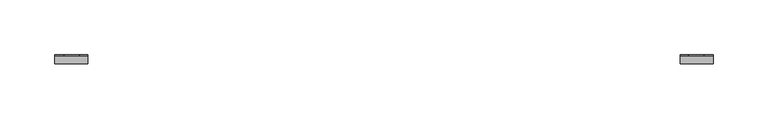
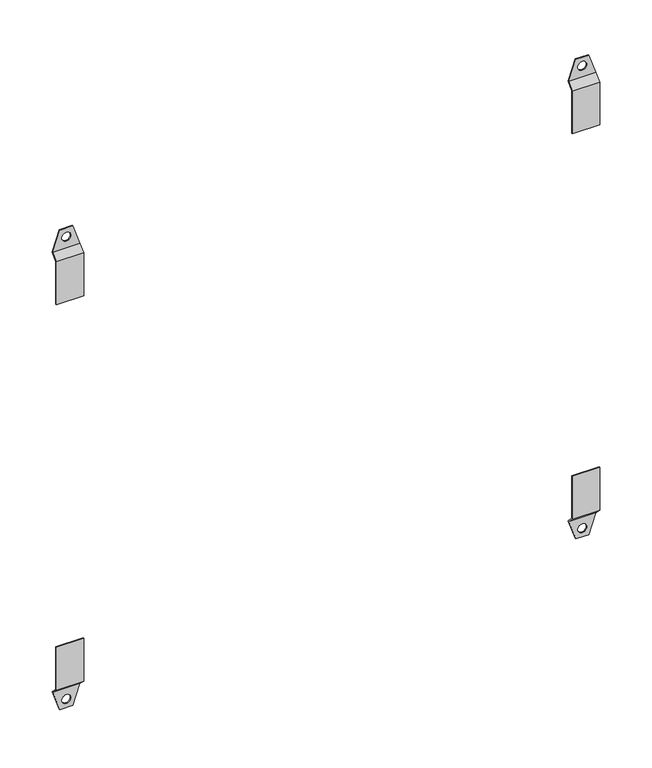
"""IFC4 building model written with IfcOpenShell, lengths in millimetres: electric distribution board geometry, DKC_Комплект кронштейнов для настенного крепления : DKC_Комплект кронштейнов для настенного крепления."""

import ifcopenshell
import ifcopenshell.guid

model = None  # the IFC model being written
_history = None  # IfcOwnerHistory: only IFC2X3 demands one
_inside = {}  # id of a spatial element -> (the spatial element, [elements in it])
_under = {}  # id of a project, library or spatial element -> (it, [spatial elements below it])
_declared = {}  # id of a project -> (the project, [libraries it declares])
_typed = {}  # id of a type object -> (the type object, [elements of that type])
_made_of = {}  # id of a material, layer set ... -> (it, [elements and type objects made of it])


def new_model(schema):
    """Start an empty IFC model of exactly this schema.

    Asked for "IFC4X3", IfcOpenShell would pick the latest addendum, in which some entities
    have other attributes; the version numbers below select the first issue.
    IFC2X3 requires an IfcOwnerHistory on every rooted entity: one is made here for all.
    """
    global model, _history
    if schema == "IFC4X3":
        model = ifcopenshell.file(schema_version=(4, 3, 0, 0))
    else:
        model = ifcopenshell.file(schema=schema)
    _inside.clear()
    _under.clear()
    _declared.clear()
    _typed.clear()
    _made_of.clear()
    _history = None
    if model.schema == "IFC2X3":
        org = make("IfcOrganization", Name="unknown")
        user = make(
            "IfcPersonAndOrganization",
            ThePerson=make("IfcPerson", FamilyName="unknown"),
            TheOrganization=org,
        )
        app = make(
            "IfcApplication",
            ApplicationDeveloper=org,
            Version="unknown",
            ApplicationFullName="unknown",
            ApplicationIdentifier="unknown",
        )
        _history = make(
            "IfcOwnerHistory",
            OwningUser=user,
            OwningApplication=app,
            ChangeAction="ADDED",
            CreationDate=0,
        )
    return model


def make(cls, **values):
    """One entity of the class cls with the attributes given. An attribute that is None is left unset."""
    return model.create_entity(
        cls, **{name: value for name, value in values.items() if value is not None}
    )


def rooted(cls, **values):
    """An entity with a GlobalId (a new one), such as an element, a storey or a relation."""
    return make(cls, GlobalId=ifcopenshell.guid.new(), OwnerHistory=_history, **values)


def si_unit(unit_type, name, prefix=None):
    """IfcSIUnit, for example si_unit("LENGTHUNIT", "METRE", prefix="MILLI")."""
    return make("IfcSIUnit", UnitType=unit_type, Prefix=prefix, Name=name)


def assignment(units):
    """IfcUnitAssignment: the units of a project."""
    return None if units is None else make("IfcUnitAssignment", Units=units)


def point(xyz):
    """IfcCartesianPoint."""
    return None if xyz is None else make("IfcCartesianPoint", Coordinates=xyz)


def direction(xyz):
    """IfcDirection."""
    return None if xyz is None else make("IfcDirection", DirectionRatios=xyz)


def frame(location, z_axis=None, x_axis=None):
    """IfcAxis2Placement3D, a coordinate frame: its origin and axes. An axis left out is left unset."""
    return make(
        "IfcAxis2Placement3D",
        Location=point(location),
        Axis=direction(z_axis),
        RefDirection=direction(x_axis),
    )


def origin():
    """The frame at (0, 0, 0) with its axes left unset."""
    return frame((0.0, 0.0, 0.0))


def place(relative_to, where):
    """IfcLocalPlacement: puts the frame where relative to a parent placement (None: the world)."""
    return make(
        "IfcLocalPlacement", PlacementRelTo=relative_to, RelativePlacement=where
    )


def context(
    kind, dimensions, precision=None, world=None, true_north=None, identifier=None
):
    """IfcGeometricRepresentationContext, for example the 3D "Model" context."""
    return make(
        "IfcGeometricRepresentationContext",
        ContextIdentifier=identifier,
        ContextType=kind,
        CoordinateSpaceDimension=dimensions,
        Precision=precision,
        WorldCoordinateSystem=world,
        TrueNorth=true_north,
    )


def project(units=None, contexts=None):
    """IfcProject with its units and contexts."""
    return rooted(
        "IfcProject",
        Name="project",
        RepresentationContexts=contexts,
        UnitsInContext=assignment(units),
    )


def spatial(cls, under=None, at=None, **own):
    """A site, building, storey or space (cls), placed at a placement, below another one or the project."""
    s = rooted(cls, ObjectPlacement=at, **own)
    if under is not None:
        _under.setdefault(under.id(), (under, []))[1].append(s)
    return s


def polyline(points):
    """IfcPolyline through the points."""
    return make("IfcPolyline", Points=[point(p) for p in points])


def circle_curve(where, radius):
    """IfcCircle in the frame where."""
    return make("IfcCircle", Position=where, Radius=radius)


def shape(context_of_items, identifier, shape_type, items):
    """IfcShapeRepresentation: the items that make up one representation, for example the "Body"."""
    return make(
        "IfcShapeRepresentation",
        ContextOfItems=context_of_items,
        RepresentationIdentifier=identifier,
        RepresentationType=shape_type,
        Items=items,
    )


def source(mapping_origin, context_of_items, identifier, shape_type, items):
    """IfcRepresentationMap: a shape defined once, which mapped items show again and again."""
    return make(
        "IfcRepresentationMap",
        MappingOrigin=mapping_origin,
        MappedRepresentation=shape(context_of_items, identifier, shape_type, items),
    )


def transform(
    local_origin,
    x_axis=None,
    y_axis=None,
    z_axis=None,
    scale=None,
    scale2=None,
    scale3=None,
    uniform=True,
):
    """IfcCartesianTransformationOperator3D, or its non-uniform kind. x_axis, y_axis, z_axis: its Axis1, 2, 3."""
    if uniform:
        return make(
            "IfcCartesianTransformationOperator3D",
            Axis1=direction(x_axis),
            Axis2=direction(y_axis),
            LocalOrigin=point(local_origin),
            Scale=scale,
            Axis3=direction(z_axis),
        )
    return make(
        "IfcCartesianTransformationOperator3DnonUniform",
        Axis1=direction(x_axis),
        Axis2=direction(y_axis),
        LocalOrigin=point(local_origin),
        Scale=scale,
        Axis3=direction(z_axis),
        Scale2=scale2,
        Scale3=scale3,
    )


def mapped(mapping_source, mapping_target):
    """IfcMappedItem: shows the shape of a source again, moved by a transform."""
    return make(
        "IfcMappedItem", MappingSource=mapping_source, MappingTarget=mapping_target
    )


def made_of(thing, what):
    """Note that an element or type object is made of a material, layer set ...; save() writes the relation."""
    if what is not None:
        _made_of.setdefault(what.id(), (what, []))[1].append(thing)
    return thing


def element(
    cls,
    number,
    at=None,
    inside=None,
    cuts=None,
    type_object=None,
    material=None,
    context=None,
    identifier="Body",
    shape_type=None,
    held_by="IfcProductDefinitionShape",
    body=None,
    shapes=None,
    **own,
):
    """One element of the class cls, such as IfcWall. Its Tag is "e" and its number.

    at: its placement. inside: the storey or other place that contains it. cuts: it is an
    opening in that element (IfcRelVoidsElement). A single representation is given by context,
    identifier, shape_type and body (its items); several are given by shapes. held_by: the class
    of the entity that holds the representations. save() writes the other relations.
    """
    e = rooted(cls, Tag="e%d" % number, ObjectPlacement=at, **own)
    if body is not None:
        shapes = [shape(context, identifier, shape_type, body)]
    if shapes is not None:
        e.Representation = make(held_by, Representations=shapes)
    if inside is not None:
        _inside.setdefault(inside.id(), (inside, []))[1].append(e)
    if cuts is not None:
        rooted(
            "IfcRelVoidsElement", RelatingBuildingElement=cuts, RelatedOpeningElement=e
        )
    if type_object is not None:
        _typed.setdefault(type_object.id(), (type_object, []))[1].append(e)
    return made_of(e, material)


def aggregate(whole, parts):
    """IfcRelAggregates: a whole, such as a stair, and the parts it consists of."""
    return rooted("IfcRelAggregates", RelatingObject=whole, RelatedObjects=parts)


def save(model, path):
    """Write the relations noted so far, then the file.

    IfcRelAggregates (storeys below a building ...), IfcRelContainedInSpatialStructure (elements
    in a storey), IfcRelDefinesByType, IfcRelAssociatesMaterial and IfcRelDeclares: one each for
    every whole, place, type object, material and project.
    """
    for whole, parts in _under.values():
        aggregate(whole, parts)
    for where, things in _inside.values():
        rooted(
            "IfcRelContainedInSpatialStructure",
            RelatedElements=things,
            RelatingStructure=where,
        )
    for kind, things in _typed.values():
        rooted("IfcRelDefinesByType", RelatedObjects=things, RelatingType=kind)
    for what, things in _made_of.values():
        rooted("IfcRelAssociatesMaterial", RelatedObjects=things, RelatingMaterial=what)
    for by, libraries in _declared.values():
        rooted("IfcRelDeclares", RelatingContext=by, RelatedDefinitions=libraries)
    model.write(path)


def plane_surface(at):
    """IfcPlane: the flat surface through the origin of the frame at, square to its z axis."""
    return make("IfcPlane", Position=at)


def revolved_surface(curve, axis_point, axis_direction):
    """IfcSurfaceOfRevolution: the curve turned about the line through axis_point along axis_direction."""
    return make(
        "IfcSurfaceOfRevolution",
        SweptCurve=make("IfcArbitraryOpenProfileDef", ProfileType="CURVE", Curve=curve),
        AxisPosition=make("IfcAxis1Placement", Location=point(axis_point), Axis=direction(axis_direction)),
    )


def advanced_brep(points, edges, surfaces, faces):
    """IfcAdvancedBrep: a solid bounded by faces that lie on surfaces and meet in shared edges.

    An edge is (start, end): straight between two places in points (the first is 0);
    or (start, end, curve); or (start, end, curve, False) where it runs against its curve.
    A face is (place in surfaces, loops), or (place, loops, False) where it looks against
    its surface's normal. A loop lists edges by number (the first is 1), with a minus sign
    where the edge is run from its end to its start. The first loop is the outer one.
    """
    corners = [point(p) for p in points]
    vertices = [make("IfcVertexPoint", VertexGeometry=c) for c in corners]
    made = []
    for start, end, *more in edges:
        made.append(
            make(
                "IfcEdgeCurve",
                EdgeStart=vertices[start],
                EdgeEnd=vertices[end],
                EdgeGeometry=more[0] if more else make("IfcPolyline", Points=[corners[start], corners[end]]),
                SameSense=more[1] if len(more) > 1 else True,
            )
        )
    hull = []
    for where, loops, *sense in faces:
        bounds = []
        for j, loop in enumerate(loops):
            ring = [make("IfcOrientedEdge", EdgeElement=made[abs(k) - 1], Orientation=k > 0) for k in loop]
            bounds.append(
                make(
                    "IfcFaceOuterBound" if j == 0 else "IfcFaceBound",
                    Bound=make("IfcEdgeLoop", EdgeList=ring),
                    Orientation=True,
                )
            )
        hull.append(make("IfcAdvancedFace", Bounds=bounds, FaceSurface=surfaces[where], SameSense=sense[0] if sense else True))
    return make("IfcAdvancedBrep", Outer=make("IfcClosedShell", CfsFaces=hull))


def electric_distribution_board_0dde6510(model_context):
    return source(origin(), model_context, "Body", "AdvancedBrep", [
        advanced_brep(
        [(270.0, 0.0, 0.0), (270.0, 0.0, 50.0), (270.0, 1.0, 50.0), (270.0, 1.0, 0.4142136), (270.0, 8.0710678, -6.6568542), (270.0, 8.0710678, -7.0710678), (270.0, 7.0710678, -7.0710678), (300.0, 0.0, 0.0), (300.0, 7.0710678, -7.0710678), (300.0, 8.0710678, -7.0710678), (300.0, 8.0710678, -6.6568542), (300.0, 1.0, 0.4142136), (300.0, 1.0, 50.0), (300.0, 0.0, 50.0), (292.1049355, 8.0710678, -30.0), (277.8950645, 8.0710678, -30.0), (290.0, 8.0710678, -20.0), (280.0, 8.0710678, -20.0), (292.1049355, 7.0710678, -30.0), (277.8950645, 7.0710678, -30.0), (280.0, 7.0710678, -20.0), (290.0, 7.0710678, -20.0)],
        [
            (0, 1),
            (1, 2),
            (2, 3),
            (3, 4),
            (4, 5),
            (5, 6),
            (6, 0),
            (7, 8),
            (8, 9),
            (9, 10),
            (10, 11),
            (11, 12),
            (12, 13),
            (13, 7),
            (0, 7),
            (13, 1),
            (12, 2),
            (11, 3),
            (10, 4),
            (9, 14),
            (14, 15),
            (15, 5),
            (16, 17, circle_curve(frame((285.0, 8.0710678, -20.0), z_axis=(0.0, -1.0, 0.0), x_axis=(-1.0, 0.0, 0.0)), 5.0)),
            (17, 16, circle_curve(frame((285.0, 8.0710678, -20.0), z_axis=(0.0, -1.0, 0.0), x_axis=(-1.0, 0.0, 0.0)), 5.0)),
            (14, 18),
            (18, 19),
            (19, 15),
            (8, 6),
            (6, 19),
            (18, 8),
            (20, 21, circle_curve(frame((285.0, 7.0710678, -20.0), z_axis=(0.0, 1.0, 0.0), x_axis=(-1.0, 0.0, 0.0)), 5.0)),
            (21, 20, circle_curve(frame((285.0, 7.0710678, -20.0), z_axis=(0.0, 1.0, 0.0), x_axis=(-1.0, 0.0, 0.0)), 5.0)),
            (16, 21),
            (20, 17),
        ],
        [
            plane_surface(frame((270.0, 0.0, 50.0), z_axis=(-1.0, 0.0, 0.0), x_axis=(0.0, 0.0, 1.0))),
            plane_surface(frame((300.0, 0.0, 50.0), z_axis=(1.0, 0.0, 0.0), x_axis=(0.0, 0.0, -1.0))),
            plane_surface(frame((270.0, 0.0, 0.0), z_axis=(0.0, -1.0, 0.0), x_axis=(1.0, 0.0, 0.0))),
            plane_surface(frame((270.0, 0.0, 50.0), z_axis=(0.0, 0.0, 1.0), x_axis=(1.0, 0.0, 0.0))),
            plane_surface(frame((270.0, 1.0, 50.0), z_axis=(0.0, 1.0, 0.0), x_axis=(1.0, 0.0, 0.0))),
            plane_surface(frame((270.0, 1.0, 0.4142136), z_axis=(0.0, 0.7071067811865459, 0.7071067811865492), x_axis=(1.0, 0.0, 0.0))),
            plane_surface(frame((270.0, 8.0710678, -6.6568542), z_axis=(0.0, 1.0, 0.0), x_axis=(1.0, 0.0, 0.0))),
            plane_surface(frame((270.0, 8.0710678, -30.0), z_axis=(0.0, 0.0, -1.0), x_axis=(1.0, 0.0, 0.0))),
            plane_surface(frame((270.0, 7.0710678, -30.0), z_axis=(0.0, -1.0, 0.0), x_axis=(1.0, 0.0, 0.0))),
            plane_surface(frame((270.0, 7.0710678, -7.0710678), z_axis=(0.0, -0.707106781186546, -0.7071067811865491), x_axis=(1.0, 0.0, 0.0))),
            revolved_surface(polyline([(280.0, 7.071067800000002, -20.0), (280.0, 8.071067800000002, -20.0)]), (285.0, 50.0, -20.0), (0.0, -1.0, 0.0)),
            plane_surface(frame((300.0, 0.0, -7.0710678), z_axis=(0.9455185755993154, 0.0, -0.32556815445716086), x_axis=(0.0, 1.0, 0.0))),
            plane_surface(frame((277.8950645, 0.0, -30.0), z_axis=(-0.9455185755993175, 0.0, -0.3255681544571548), x_axis=(0.0, 1.0, 0.0))),
        ],
        [
            (0, [[1, 2, 3, 4, 5, 6, 7]]),
            (1, [[8, 9, 10, 11, 12, 13, 14]]),
            (2, [[-1, 15, -14, 16]]),
            (3, [[-2, -16, -13, 17]]),
            (4, [[-3, -17, -12, 18]]),
            (5, [[-4, -18, -11, 19]]),
            (6, [[-19, -10, 20, 21, 22, -5], [23, 24]]),
            (7, [[-21, 25, 26, 27]]),
            (8, [[28, 29, -26, 30], [31, 32]]),
            (9, [[-7, -28, -8, -15]]),
            (10, [[33, -31, 34, -23]]),
            (10, [[-33, -24, -34, -32]]),
            (11, [[-9, -30, -25, -20]]),
            (12, [[-6, -22, -27, -29]]),
        ],
    ),
        advanced_brep(
        [(-300.0, 0.0, 0.0), (-300.0, 0.0, 50.0), (-300.0, 1.0, 50.0), (-300.0, 1.0, 0.4142136), (-300.0, 8.0710678, -6.6568542), (-300.0, 8.0710678, -7.0710678), (-300.0, 7.0710678, -7.0710678), (-270.0, 0.0, 0.0), (-270.0, 7.0710678, -7.0710678), (-270.0, 8.0710678, -7.0710678), (-270.0, 8.0710678, -6.6568542), (-270.0, 1.0, 0.4142136), (-270.0, 1.0, 50.0), (-270.0, 0.0, 50.0), (-277.8950645, 8.0710678, -30.0), (-292.1049355, 8.0710678, -30.0), (-280.0, 8.0710678, -20.0), (-290.0, 8.0710678, -20.0), (-277.8950645, 7.0710678, -30.0), (-292.1049355, 7.0710678, -30.0), (-290.0, 7.0710678, -20.0), (-280.0, 7.0710678, -20.0)],
        [
            (0, 1),
            (1, 2),
            (2, 3),
            (3, 4),
            (4, 5),
            (5, 6),
            (6, 0),
            (7, 8),
            (8, 9),
            (9, 10),
            (10, 11),
            (11, 12),
            (12, 13),
            (13, 7),
            (0, 7),
            (13, 1),
            (12, 2),
            (11, 3),
            (10, 4),
            (9, 14),
            (14, 15),
            (15, 5),
            (16, 17, circle_curve(frame((-285.0, 8.0710678, -20.0), z_axis=(0.0, -1.0, 0.0), x_axis=(-1.0, 0.0, 0.0)), 5.0)),
            (17, 16, circle_curve(frame((-285.0, 8.0710678, -20.0), z_axis=(0.0, -1.0, 0.0), x_axis=(-1.0, 0.0, 0.0)), 5.0)),
            (14, 18),
            (18, 19),
            (19, 15),
            (8, 6),
            (6, 19),
            (18, 8),
            (20, 21, circle_curve(frame((-285.0, 7.0710678, -20.0), z_axis=(0.0, 1.0, 0.0), x_axis=(-1.0, 0.0, 0.0)), 5.0)),
            (21, 20, circle_curve(frame((-285.0, 7.0710678, -20.0), z_axis=(0.0, 1.0, 0.0), x_axis=(-1.0, 0.0, 0.0)), 5.0)),
            (16, 21),
            (20, 17),
        ],
        [
            plane_surface(frame((-300.0, 0.0, 50.0), z_axis=(-1.0, 0.0, 0.0), x_axis=(0.0, 0.0, 1.0))),
            plane_surface(frame((-270.0, 0.0, 50.0), z_axis=(1.0, 0.0, 0.0), x_axis=(0.0, 0.0, -1.0))),
            plane_surface(frame((-300.0, 0.0, 0.0), z_axis=(0.0, -1.0, 0.0), x_axis=(1.0, 0.0, 0.0))),
            plane_surface(frame((-300.0, 0.0, 50.0), z_axis=(0.0, 0.0, 1.0), x_axis=(1.0, 0.0, 0.0))),
            plane_surface(frame((-300.0, 1.0, 50.0), z_axis=(0.0, 1.0, 0.0), x_axis=(1.0, 0.0, 0.0))),
            plane_surface(frame((-300.0, 1.0, 0.4142136), z_axis=(0.0, 0.7071067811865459, 0.7071067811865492), x_axis=(1.0, 0.0, 0.0))),
            plane_surface(frame((-300.0, 8.0710678, -6.6568542), z_axis=(0.0, 1.0, 0.0), x_axis=(1.0, 0.0, 0.0))),
            plane_surface(frame((-300.0, 8.0710678, -30.0), z_axis=(0.0, 0.0, -1.0), x_axis=(1.0, 0.0, 0.0))),
            plane_surface(frame((-300.0, 7.0710678, -30.0), z_axis=(0.0, -1.0, 0.0), x_axis=(1.0, 0.0, 0.0))),
            plane_surface(frame((-300.0, 7.0710678, -7.0710678), z_axis=(0.0, -0.707106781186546, -0.7071067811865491), x_axis=(1.0, 0.0, 0.0))),
            revolved_surface(polyline([(-290.0, 7.071067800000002, -20.0), (-290.0, 8.071067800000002, -20.0)]), (-285.0, 50.0, -20.0), (0.0, -1.0, 0.0)),
            plane_surface(frame((-270.0, 0.0, -7.0710678), z_axis=(0.9455185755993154, 0.0, -0.3255681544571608), x_axis=(0.0, 1.0, 0.0))),
            plane_surface(frame((-292.1049355, 0.0, -30.0), z_axis=(-0.9455185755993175, 0.0, -0.32556815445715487), x_axis=(0.0, 1.0, 0.0))),
        ],
        [
            (0, [[1, 2, 3, 4, 5, 6, 7]]),
            (1, [[8, 9, 10, 11, 12, 13, 14]]),
            (2, [[-1, 15, -14, 16]]),
            (3, [[-2, -16, -13, 17]]),
            (4, [[-3, -17, -12, 18]]),
            (5, [[-4, -18, -11, 19]]),
            (6, [[-19, -10, 20, 21, 22, -5], [23, 24]]),
            (7, [[-21, 25, 26, 27]]),
            (8, [[28, 29, -26, 30], [31, 32]]),
            (9, [[-7, -28, -8, -15]]),
            (10, [[33, -31, 34, -23]]),
            (10, [[-33, -24, -34, -32]]),
            (11, [[-9, -30, -25, -20]]),
            (12, [[-6, -22, -27, -29]]),
        ],
    ),
        advanced_brep(
        [(-270.0, 0.0, 500.0), (-270.0, 0.0, 450.0), (-270.0, 1.0, 450.0), (-270.0, 1.0, 499.5857864), (-270.0, 8.0710678, 506.6568542), (-270.0, 8.0710678, 507.0710678), (-270.0, 7.0710678, 507.0710678), (-300.0, 0.0, 500.0), (-300.0, 7.0710678, 507.0710678), (-300.0, 8.0710678, 507.0710678), (-300.0, 8.0710678, 506.6568542), (-300.0, 1.0, 499.5857864), (-300.0, 1.0, 450.0), (-300.0, 0.0, 450.0), (-292.1049355, 8.0710678, 530.0), (-277.8950645, 8.0710678, 530.0), (-290.0, 8.0710678, 520.0), (-280.0, 8.0710678, 520.0), (-292.1049355, 7.0710678, 530.0), (-277.8950645, 7.0710678, 530.0), (-280.0, 7.0710678, 520.0), (-290.0, 7.0710678, 520.0)],
        [
            (0, 1),
            (1, 2),
            (2, 3),
            (3, 4),
            (4, 5),
            (5, 6),
            (6, 0),
            (7, 8),
            (8, 9),
            (9, 10),
            (10, 11),
            (11, 12),
            (12, 13),
            (13, 7),
            (0, 7),
            (13, 1),
            (12, 2),
            (11, 3),
            (10, 4),
            (9, 14),
            (14, 15),
            (15, 5),
            (16, 17, circle_curve(frame((-285.0, 8.0710678, 520.0), z_axis=(0.0, -1.0, 0.0), x_axis=(1.0, 0.0, 0.0)), 5.0)),
            (17, 16, circle_curve(frame((-285.0, 8.0710678, 520.0), z_axis=(0.0, -1.0, 0.0), x_axis=(1.0, 0.0, 0.0)), 5.0)),
            (14, 18),
            (18, 19),
            (19, 15),
            (8, 6),
            (6, 19),
            (18, 8),
            (20, 21, circle_curve(frame((-285.0, 7.0710678, 520.0), z_axis=(0.0, 1.0, 0.0), x_axis=(1.0, 0.0, 0.0)), 5.0)),
            (21, 20, circle_curve(frame((-285.0, 7.0710678, 520.0), z_axis=(0.0, 1.0, 0.0), x_axis=(1.0, 0.0, 0.0)), 5.0)),
            (16, 21),
            (20, 17),
        ],
        [
            plane_surface(frame((-270.0, 0.0, 450.0), z_axis=(1.0, 0.0, 0.0), x_axis=(0.0, 0.0, -1.0))),
            plane_surface(frame((-300.0, 0.0, 450.0), z_axis=(-1.0, 0.0, 0.0), x_axis=(0.0, 0.0, 1.0))),
            plane_surface(frame((-270.0, 0.0, 500.0), z_axis=(0.0, -1.0, 0.0), x_axis=(-1.0, 0.0, 0.0))),
            plane_surface(frame((-270.0, 0.0, 450.0), z_axis=(0.0, 0.0, -1.0), x_axis=(-1.0, 0.0, 0.0))),
            plane_surface(frame((-270.0, 1.0, 450.0), z_axis=(0.0, 1.0, 0.0), x_axis=(-1.0, 0.0, 0.0))),
            plane_surface(frame((-270.0, 1.0, 499.5857864), z_axis=(0.0, 0.7071067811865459, -0.7071067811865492), x_axis=(-1.0, 0.0, 0.0))),
            plane_surface(frame((-270.0, 8.0710678, 506.6568542), z_axis=(0.0, 1.0, 0.0), x_axis=(-1.0, 0.0, 0.0))),
            plane_surface(frame((-270.0, 8.0710678, 530.0), z_axis=(0.0, 0.0, 1.0), x_axis=(-1.0, 0.0, 0.0))),
            plane_surface(frame((-270.0, 7.0710678, 530.0), z_axis=(0.0, -1.0, 0.0), x_axis=(-1.0, 0.0, 0.0))),
            plane_surface(frame((-270.0, 7.0710678, 507.0710678), z_axis=(0.0, -0.707106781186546, 0.7071067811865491), x_axis=(-1.0, 0.0, 0.0))),
            revolved_surface(polyline([(-280.0, 7.071067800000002, 520.0), (-280.0, 8.071067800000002, 520.0)]), (-285.0, 50.0, 520.0), (0.0, -1.0, 0.0)),
            plane_surface(frame((-300.0, 0.0, 507.0710678), z_axis=(-0.9455185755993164, 0.0, 0.3255681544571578), x_axis=(0.0, 1.0, 0.0))),
            plane_surface(frame((-277.8950645, 0.0, 530.0), z_axis=(0.9455185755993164, 0.0, 0.3255681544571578), x_axis=(0.0, 1.0, 0.0))),
        ],
        [
            (0, [[1, 2, 3, 4, 5, 6, 7]]),
            (1, [[8, 9, 10, 11, 12, 13, 14]]),
            (2, [[-1, 15, -14, 16]]),
            (3, [[-2, -16, -13, 17]]),
            (4, [[-3, -17, -12, 18]]),
            (5, [[-4, -18, -11, 19]]),
            (6, [[-19, -10, 20, 21, 22, -5], [23, 24]]),
            (7, [[-21, 25, 26, 27]]),
            (8, [[28, 29, -26, 30], [31, 32]]),
            (9, [[-7, -28, -8, -15]]),
            (10, [[33, -31, 34, -23]]),
            (10, [[-33, -24, -34, -32]]),
            (11, [[-9, -30, -25, -20]]),
            (12, [[-6, -22, -27, -29]]),
        ],
    ),
        advanced_brep(
        [(300.0, 0.0, 500.0), (300.0, 0.0, 450.0), (300.0, 1.0, 450.0), (300.0, 1.0, 499.5857864), (300.0, 8.0710678, 506.6568542), (300.0, 8.0710678, 507.0710678), (300.0, 7.0710678, 507.0710678), (270.0, 0.0, 500.0), (270.0, 7.0710678, 507.0710678), (270.0, 8.0710678, 507.0710678), (270.0, 8.0710678, 506.6568542), (270.0, 1.0, 499.5857864), (270.0, 1.0, 450.0), (270.0, 0.0, 450.0), (277.8950645, 8.0710678, 530.0), (292.1049355, 8.0710678, 530.0), (280.0, 8.0710678, 520.0), (290.0, 8.0710678, 520.0), (277.8950645, 7.0710678, 530.0), (292.1049355, 7.0710678, 530.0), (290.0, 7.0710678, 520.0), (280.0, 7.0710678, 520.0)],
        [
            (0, 1),
            (1, 2),
            (2, 3),
            (3, 4),
            (4, 5),
            (5, 6),
            (6, 0),
            (7, 8),
            (8, 9),
            (9, 10),
            (10, 11),
            (11, 12),
            (12, 13),
            (13, 7),
            (0, 7),
            (13, 1),
            (12, 2),
            (11, 3),
            (10, 4),
            (9, 14),
            (14, 15),
            (15, 5),
            (16, 17, circle_curve(frame((285.0, 8.0710678, 520.0), z_axis=(0.0, -1.0, 0.0), x_axis=(1.0, 0.0, 0.0)), 5.0)),
            (17, 16, circle_curve(frame((285.0, 8.0710678, 520.0), z_axis=(0.0, -1.0, 0.0), x_axis=(1.0, 0.0, 0.0)), 5.0)),
            (14, 18),
            (18, 19),
            (19, 15),
            (8, 6),
            (6, 19),
            (18, 8),
            (20, 21, circle_curve(frame((285.0, 7.0710678, 520.0), z_axis=(0.0, 1.0, 0.0), x_axis=(1.0, 0.0, 0.0)), 5.0)),
            (21, 20, circle_curve(frame((285.0, 7.0710678, 520.0), z_axis=(0.0, 1.0, 0.0), x_axis=(1.0, 0.0, 0.0)), 5.0)),
            (16, 21),
            (20, 17),
        ],
        [
            plane_surface(frame((300.0, 0.0, 450.0), z_axis=(1.0, 0.0, 0.0), x_axis=(0.0, 0.0, -1.0))),
            plane_surface(frame((270.0, 0.0, 450.0), z_axis=(-1.0, 0.0, 0.0), x_axis=(0.0, 0.0, 1.0))),
            plane_surface(frame((300.0, 0.0, 500.0), z_axis=(0.0, -1.0, 0.0), x_axis=(-1.0, 0.0, 0.0))),
            plane_surface(frame((300.0, 0.0, 450.0), z_axis=(0.0, 0.0, -1.0), x_axis=(-1.0, 0.0, 0.0))),
            plane_surface(frame((300.0, 1.0, 450.0), z_axis=(0.0, 1.0, 0.0), x_axis=(-1.0, 0.0, 0.0))),
            plane_surface(frame((300.0, 1.0, 499.5857864), z_axis=(0.0, 0.7071067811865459, -0.7071067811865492), x_axis=(-1.0, 0.0, 0.0))),
            plane_surface(frame((300.0, 8.0710678, 506.6568542), z_axis=(0.0, 1.0, 0.0), x_axis=(-1.0, 0.0, 0.0))),
            plane_surface(frame((300.0, 8.0710678, 530.0), z_axis=(0.0, 0.0, 1.0), x_axis=(-1.0, 0.0, 0.0))),
            plane_surface(frame((300.0, 7.0710678, 530.0), z_axis=(0.0, -1.0, 0.0), x_axis=(-1.0, 0.0, 0.0))),
            plane_surface(frame((300.0, 7.0710678, 507.0710678), z_axis=(0.0, -0.707106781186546, 0.7071067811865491), x_axis=(-1.0, 0.0, 0.0))),
            revolved_surface(polyline([(290.0, 7.071067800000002, 520.0), (290.0, 8.071067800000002, 520.0)]), (285.0, 50.0, 520.0), (0.0, -1.0, 0.0)),
            plane_surface(frame((270.0, 0.0, 507.0710678), z_axis=(-0.9455185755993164, 0.0, 0.3255681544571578), x_axis=(0.0, 1.0, 0.0))),
            plane_surface(frame((292.1049355, 0.0, 530.0), z_axis=(0.9455185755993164, 0.0, 0.3255681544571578), x_axis=(0.0, 1.0, 0.0))),
        ],
        [
            (0, [[1, 2, 3, 4, 5, 6, 7]]),
            (1, [[8, 9, 10, 11, 12, 13, 14]]),
            (2, [[-1, 15, -14, 16]]),
            (3, [[-2, -16, -13, 17]]),
            (4, [[-3, -17, -12, 18]]),
            (5, [[-4, -18, -11, 19]]),
            (6, [[-19, -10, 20, 21, 22, -5], [23, 24]]),
            (7, [[-21, 25, 26, 27]]),
            (8, [[28, 29, -26, 30], [31, 32]]),
            (9, [[-7, -28, -8, -15]]),
            (10, [[33, -31, 34, -23]]),
            (10, [[-33, -24, -34, -32]]),
            (11, [[-9, -30, -25, -20]]),
            (12, [[-6, -22, -27, -29]]),
        ],
    ),
    ])


if __name__ == "__main__":
    model = new_model("IFC4")
    model_context = context("Model", 3, world=origin())
    ifc_project = project(units=[si_unit("LENGTHUNIT", "METRE", prefix="MILLI")], contexts=[model_context])
    site = spatial("IfcSite", under=ifc_project)
    building = spatial("IfcBuilding", under=site)
    placement = place(None, origin())
    electric_distribution_board_shape = electric_distribution_board_0dde6510(model_context)
    element("IfcElectricDistributionBoard", 1, ObjectType="DKC_Комплект кронштейнов для настенного крепления : DKC_Комплект кронштейнов для настенного крепления", at=placement, inside=building, context=model_context, shape_type="MappedRepresentation", body=[
        mapped(electric_distribution_board_shape, transform((0.0, 0.0, 0.0), x_axis=(1.0, 0.0, 0.0), y_axis=(0.0, 1.0, 0.0), z_axis=(0.0, 0.0, 1.0))),
    ])
    save(model, "model.ifc")
